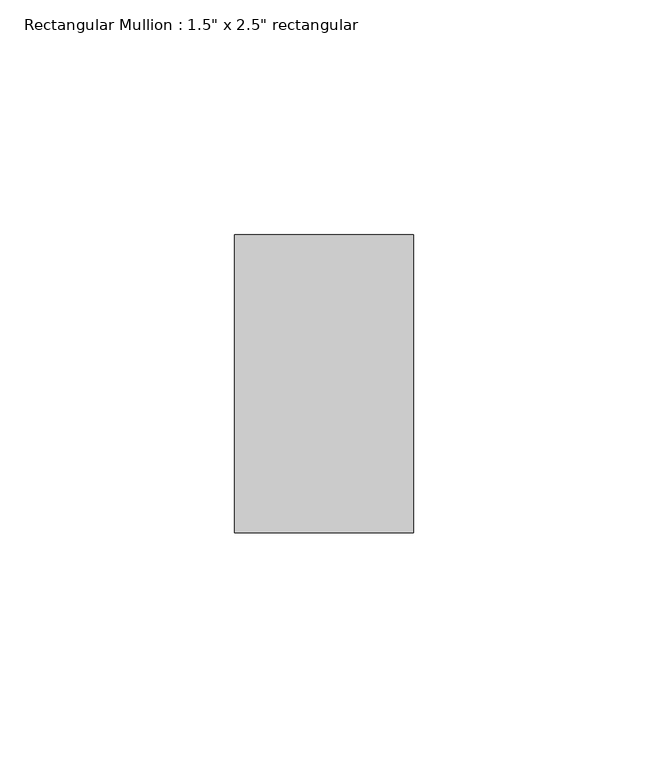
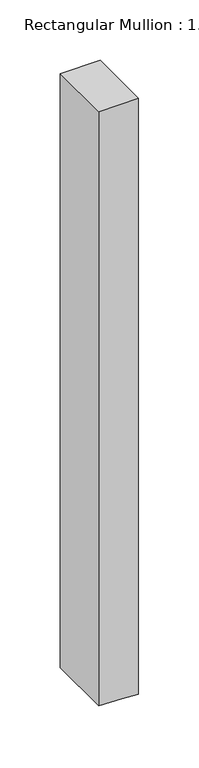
"""IFC4 building model written with IfcOpenShell, lengths in millimetres: member geometry."""

from ifc_helpers import new_model, si_unit, frame, origin, place, context, project, spatial, polyline, outline, extrude, source, transform, mapped, element, save


def member_53b3c237(model_context):
    return source(origin(), model_context, "Body", "SweptSolid", [
        extrude(outline(polyline([(0.0, 19.05), (0.0, -19.05), (-601.1652131, -19.05), (-601.8323215, 3.2762271), (-602.9912255, 19.05), (0.0, 19.05)])), frame((0.0, -31.75, 0.0), z_axis=(0.0, 1.0, 0.0), x_axis=(0.0, 0.0, 1.0)), (0.0, 0.0, 1.0), 63.5),
    ])


if __name__ == "__main__":
    model = new_model("IFC4")
    model_context = context("Model", 3, world=origin())
    ifc_project = project(units=[si_unit("LENGTHUNIT", "METRE", prefix="MILLI")], contexts=[model_context])
    site = spatial("IfcSite", under=ifc_project)
    building = spatial("IfcBuilding", under=site)
    placement = place(None, origin())
    member_shape = member_53b3c237(model_context)
    element("IfcMember", 1, ObjectType="Rectangular Mullion : 1.5\" x 2.5\" rectangular", at=placement, inside=building, context=model_context, shape_type="MappedRepresentation", body=[
        mapped(member_shape, transform((0.0, 0.0, 0.0), x_axis=(1.0, 0.0, 0.0), y_axis=(0.0, 1.0, 0.0), z_axis=(0.0, 0.0, 1.0))),
    ])
    save(model, "model.ifc")
